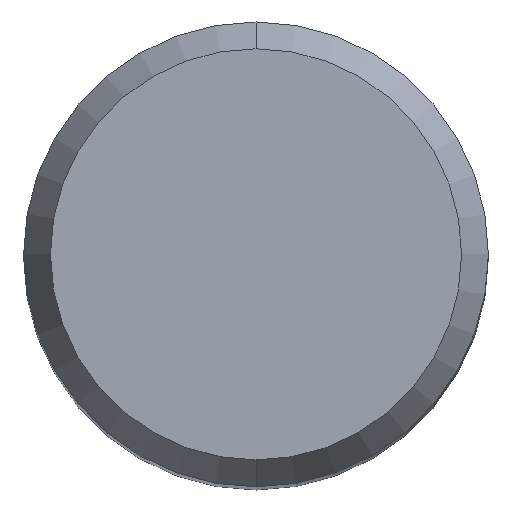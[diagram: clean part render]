
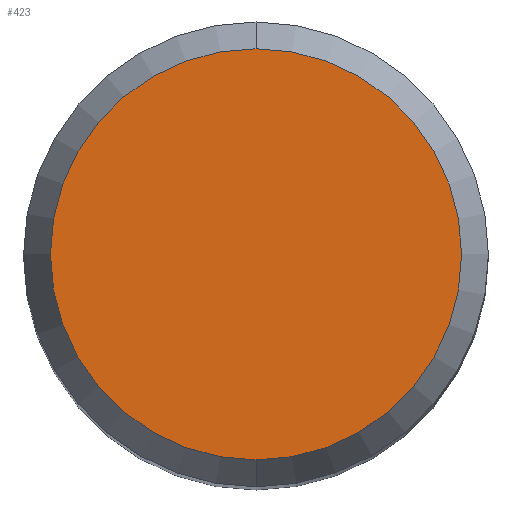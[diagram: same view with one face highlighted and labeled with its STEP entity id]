
A CAD part, top view. The second image highlights one B-rep face of the part: STEP entity #423.
In plain terms, the highlighted planar face has unit normal (0, 0, 1).
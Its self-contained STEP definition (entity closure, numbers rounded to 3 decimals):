
#235=VERTEX_POINT('',#531);
#339=VERTEX_POINT('',#646);
#345=EDGE_CURVE('',#235,#339,#653,.T.);
#423=ADVANCED_FACE('',(#740),#741,.T.);
#435=EDGE_CURVE('',#339,#235,#754,.T.);
#531=CARTESIAN_POINT('',(0.0,4.423,0.0));
#646=CARTESIAN_POINT('',(0.,-4.423,0.0));
#653=CIRCLE('',#1151,4.423);
#740=FACE_OUTER_BOUND('',#1384,.T.);
#741=PLANE('',#1385);
#754=CIRCLE('',#1404,4.423);
#1151=AXIS2_PLACEMENT_3D('',#1623,#1624,#1625);
#1384=EDGE_LOOP('',(#1726,#1727));
#1385=AXIS2_PLACEMENT_3D('',#1728,#1729,#1730);
#1404=AXIS2_PLACEMENT_3D('',#1742,#1743,#1744);
#1623=CARTESIAN_POINT('',(0.0,0.0,0.0));
#1624=DIRECTION('',(0.0,0.0,-1.0));
#1625=DIRECTION('',(0.0,1.0,0.0));
#1726=ORIENTED_EDGE('',*,*,#345,.F.);
#1727=ORIENTED_EDGE('',*,*,#435,.F.);
#1728=CARTESIAN_POINT('',(0.0,2.211,0.0));
#1729=DIRECTION('',(-0.0,0.0,1.0));
#1730=DIRECTION('',(0.0,-1.0,0.0));
#1742=CARTESIAN_POINT('',(0.0,0.0,0.0));
#1743=DIRECTION('',(0.0,0.0,-1.0));
#1744=DIRECTION('',(0.0,1.0,0.0));
